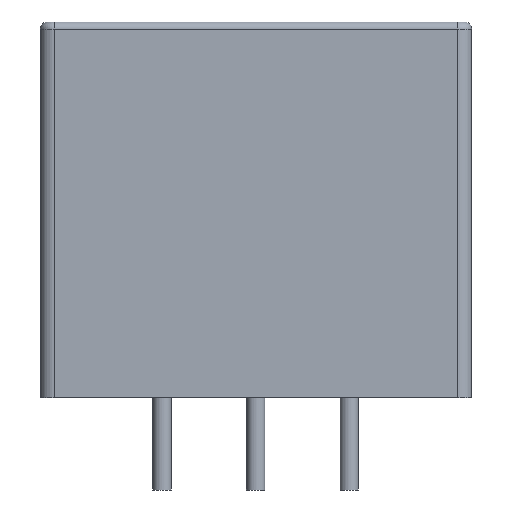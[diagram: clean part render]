
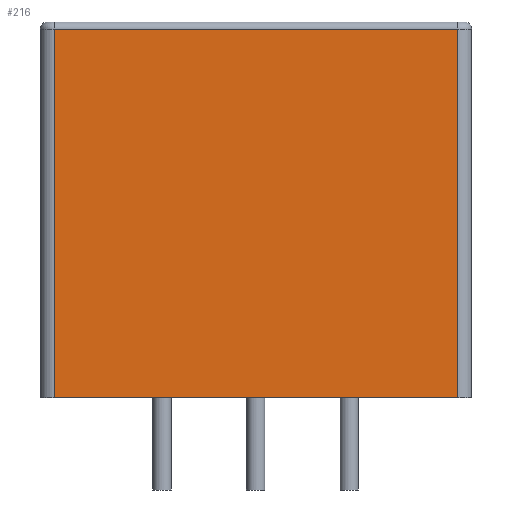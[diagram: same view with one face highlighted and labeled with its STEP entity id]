
A CAD part, front view. The second image highlights one B-rep face of the part: STEP entity #216.
In plain terms, the highlighted planar face has unit normal (0, -1, 0).
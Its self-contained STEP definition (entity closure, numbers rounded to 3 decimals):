
#74 = VERTEX_POINT('',#75);
#75 = CARTESIAN_POINT('',(8.02,-2.,0.1));
#82 = EDGE_CURVE('',#74,#83,#85,.T.);
#83 = VERTEX_POINT('',#84);
#84 = CARTESIAN_POINT('',(-2.92,-2.,0.1));
#85 = LINE('',#86,#87);
#86 = CARTESIAN_POINT('',(8.4,-2.,0.1));
#87 = VECTOR('',#88,1.);
#88 = DIRECTION('',(-1.,0.,0.));
#195 = EDGE_CURVE('',#74,#196,#198,.T.);
#196 = VERTEX_POINT('',#197);
#197 = CARTESIAN_POINT('',(8.02,-2.,10.11));
#198 = LINE('',#199,#200);
#199 = CARTESIAN_POINT('',(8.02,-2.,0.1));
#200 = VECTOR('',#201,1.);
#201 = DIRECTION('',(0.,0.,1.));
#216 = ADVANCED_FACE('',(#217),#235,.T.);
#217 = FACE_BOUND('',#218,.T.);
#218 = EDGE_LOOP('',(#219,#220,#228,#234));
#219 = ORIENTED_EDGE('',*,*,#195,.T.);
#220 = ORIENTED_EDGE('',*,*,#221,.T.);
#221 = EDGE_CURVE('',#196,#222,#224,.T.);
#222 = VERTEX_POINT('',#223);
#223 = CARTESIAN_POINT('',(-2.92,-2.,10.11));
#224 = LINE('',#225,#226);
#225 = CARTESIAN_POINT('',(8.02,-2.,10.11));
#226 = VECTOR('',#227,1.);
#227 = DIRECTION('',(-1.,0.,0.));
#228 = ORIENTED_EDGE('',*,*,#229,.F.);
#229 = EDGE_CURVE('',#83,#222,#230,.T.);
#230 = LINE('',#231,#232);
#231 = CARTESIAN_POINT('',(-2.92,-2.,0.1));
#232 = VECTOR('',#233,1.);
#233 = DIRECTION('',(0.,0.,1.));
#234 = ORIENTED_EDGE('',*,*,#82,.F.);
#235 = PLANE('',#236);
#236 = AXIS2_PLACEMENT_3D('',#237,#238,#239);
#237 = CARTESIAN_POINT('',(8.4,-2.,0.1));
#238 = DIRECTION('',(0.,-1.,0.));
#239 = DIRECTION('',(-1.,0.,0.));
